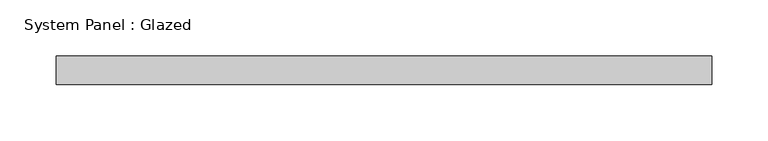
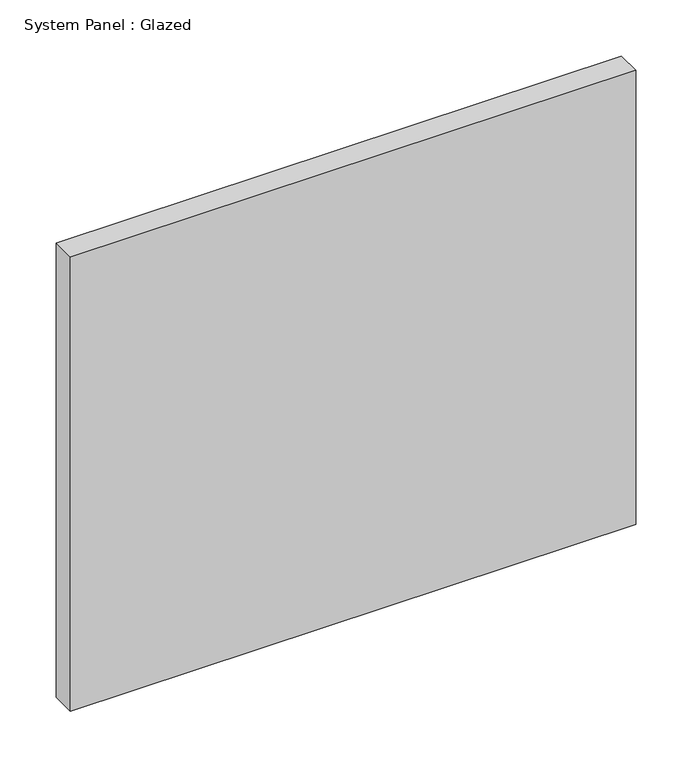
"""IFC4 building model written with IfcOpenShell, lengths in millimetres: plate geometry, System Panel : Glazed."""

from ifc_helpers import new_model, si_unit, origin, origin_with_axes, place, context, project, spatial, polyline, outline, extrude, source, transform, mapped, element, save


def system_panel_glazed_43fb2a14(model_context):
    return source(origin(), model_context, "Body", "SweptSolid", [
        extrude(outline(polyline([(291.2809293, -12.7), (-291.2809293, -12.7), (-291.2809293, 12.7), (291.2809293, 12.7), (291.2809293, -12.7)])), origin_with_axes(), (0.0, 0.0, 1.0), 495.3),
    ])


if __name__ == "__main__":
    model = new_model("IFC4")
    model_context = context("Model", 3, world=origin())
    ifc_project = project(units=[si_unit("LENGTHUNIT", "METRE", prefix="MILLI")], contexts=[model_context])
    site = spatial("IfcSite", under=ifc_project)
    building = spatial("IfcBuilding", under=site)
    placement = place(None, origin())
    system_panel_glazed_shape = system_panel_glazed_43fb2a14(model_context)
    element("IfcPlate", 1, ObjectType="System Panel : Glazed", at=placement, inside=building, context=model_context, shape_type="MappedRepresentation", body=[
        mapped(system_panel_glazed_shape, transform((0.0, 0.0, 0.0), x_axis=(1.0, 0.0, 0.0), y_axis=(0.0, 1.0, 0.0), z_axis=(0.0, 0.0, 1.0))),
    ])
    save(model, "model.ifc")
